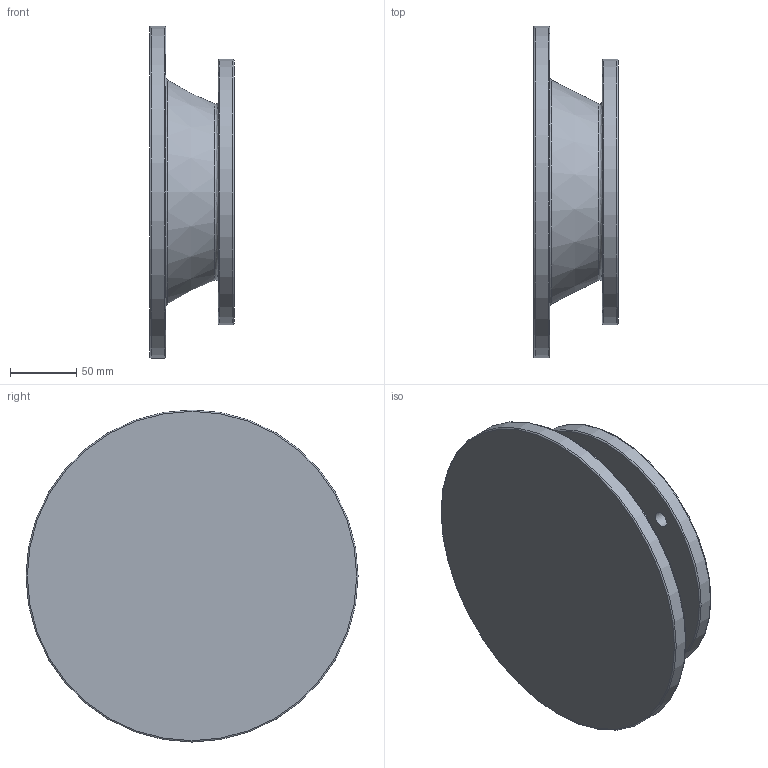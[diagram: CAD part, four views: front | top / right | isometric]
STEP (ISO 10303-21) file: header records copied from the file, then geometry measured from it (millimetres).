
FILE_DESCRIPTION((''),'2;1');
FILE_NAME('F:\PAWEŁ\ZLECENIA\2011 DualSystem\Przekładnie DK\001 Modele\DKAB80_\DK_80_STEP\90_B5_L63,5.stp','2012-08-20T11:58:16',('admin'),(''),'Autodesk Inventor 2009','Autodesk Inventor 2009','');
FILE_SCHEMA(('AUTOMOTIVE_DESIGN { 1 0 10303 214 1 1 1 1 }'));
Length unit declared in the file: millimetre
Products named in the file (1): 90_B5_L63,5
Bounding box: 63.5 x 250 x 250 mm (x, y, z)
Volume: 999511.6 mm3; surface area: 204341.8 mm2
Topology: 1 solids, 1 shells, 30 faces, 58 edges, 36 vertices
Faces by surface type: plane 11, cylinder 6, bspline 6, torus 5, cone 2
Full cylindrical faces by diameter (mm): 44 x1, 116.549 x1, 130 x1, 200 x1, 250 x1
Entity records: 895 total; most frequent: CARTESIAN_POINT 281, DIRECTION 120, ORIENTED_EDGE 80, EDGE_LOOP 62, AXIS2_PLACEMENT_3D 55, EDGE_CURVE 40, VERTEX_POINT 36, FACE_BOUND 32
